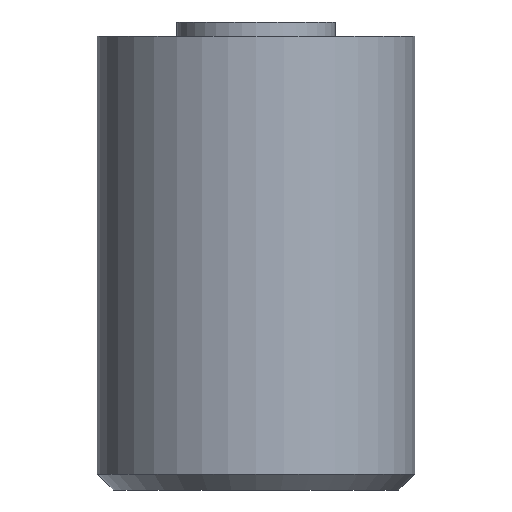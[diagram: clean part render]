
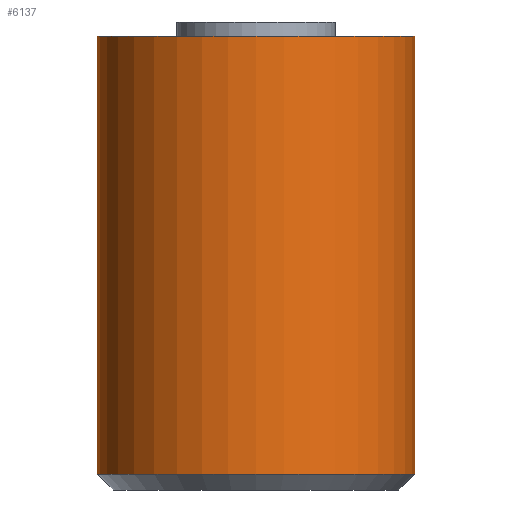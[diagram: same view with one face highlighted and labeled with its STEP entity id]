
A CAD part, front view. The second image highlights one B-rep face of the part: STEP entity #6137.
In plain terms, the highlighted cylindrical face has radius 1.4 mm (diameter 2.8 mm), a full revolution.
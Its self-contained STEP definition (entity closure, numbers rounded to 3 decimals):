
#19=CYLINDRICAL_SURFACE('',#6265,1.4);
#22=CIRCLE('',#6240,1.4);
#27=CIRCLE('',#6263,1.4);
#490=FACE_OUTER_BOUND('',#854,.T.);
#854=EDGE_LOOP('',(#5565,#5566,#5567,#5568));
#1302=LINE('',#12733,#1748);
#1748=VECTOR('',#6939,1.4);
#2809=VERTEX_POINT('',#12678);
#2820=VERTEX_POINT('',#12727);
#3715=EDGE_CURVE('',#2809,#2809,#22,.T.);
#3735=EDGE_CURVE('',#2820,#2820,#27,.T.);
#3738=EDGE_CURVE('',#2809,#2820,#1302,.T.);
#5565=ORIENTED_EDGE('',*,*,#3715,.F.);
#5566=ORIENTED_EDGE('',*,*,#3738,.T.);
#5567=ORIENTED_EDGE('',*,*,#3735,.F.);
#5568=ORIENTED_EDGE('',*,*,#3738,.F.);
#6137=ADVANCED_FACE('',(#490),#19,.T.);
#6240=AXIS2_PLACEMENT_3D('',#12679,#6871,#6872);
#6263=AXIS2_PLACEMENT_3D('',#12728,#6932,#6933);
#6265=AXIS2_PLACEMENT_3D('',#12732,#6937,#6938);
#6871=DIRECTION('center_axis',(0.,0.,1.));
#6872=DIRECTION('ref_axis',(1.,0.,0.));
#6932=DIRECTION('center_axis',(0.,0.,-1.));
#6933=DIRECTION('ref_axis',(1.,0.,0.));
#6937=DIRECTION('center_axis',(0.,0.,1.));
#6938=DIRECTION('ref_axis',(1.,0.,0.));
#6939=DIRECTION('',(0.,0.,-1.));
#12678=CARTESIAN_POINT('',(-1.4,0.,4.));
#12679=CARTESIAN_POINT('Origin',(0.,0.,4.));
#12727=CARTESIAN_POINT('',(-1.4,0.,0.141));
#12728=CARTESIAN_POINT('Origin',(0.,0.,0.141));
#12732=CARTESIAN_POINT('Origin',(0.,0.,0.));
#12733=CARTESIAN_POINT('',(-1.4,0.,0.));
